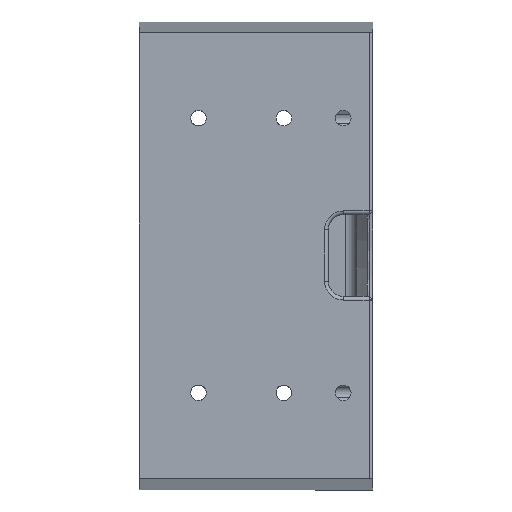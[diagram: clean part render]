
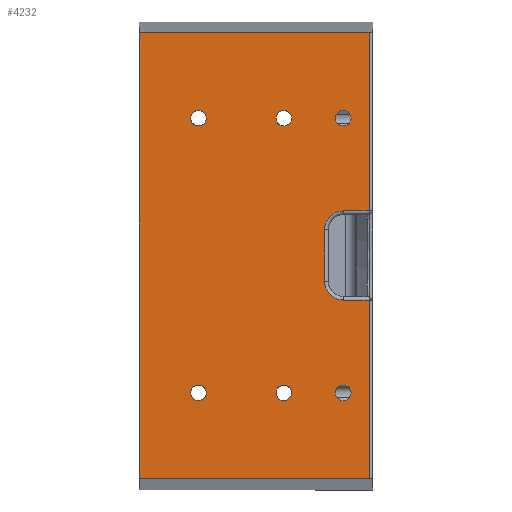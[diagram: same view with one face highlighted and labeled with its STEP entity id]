
A CAD part, top view. The second image highlights one B-rep face of the part: STEP entity #4232.
In plain terms, the highlighted planar face has unit normal (0, 0, 1).
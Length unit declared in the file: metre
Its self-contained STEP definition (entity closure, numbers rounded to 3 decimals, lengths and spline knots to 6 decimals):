
#73=PLANE('',#4573);
#234=CIRCLE('',#4574,0.0021);
#235=CIRCLE('',#4575,0.0021);
#236=CIRCLE('',#4576,0.0021);
#237=CIRCLE('',#4577,0.0021);
#238=CIRCLE('',#4578,0.0021);
#239=CIRCLE('',#4579,0.0021);
#240=CIRCLE('',#4580,0.005);
#241=CIRCLE('',#4581,0.005);
#624=ORIENTED_EDGE('',*,*,#1893,.T.);
#625=ORIENTED_EDGE('',*,*,#1894,.T.);
#626=ORIENTED_EDGE('',*,*,#1895,.T.);
#627=ORIENTED_EDGE('',*,*,#1896,.T.);
#628=ORIENTED_EDGE('',*,*,#1897,.T.);
#629=ORIENTED_EDGE('',*,*,#1898,.T.);
#630=ORIENTED_EDGE('',*,*,#1899,.F.);
#631=ORIENTED_EDGE('',*,*,#1873,.F.);
#632=ORIENTED_EDGE('',*,*,#1900,.T.);
#633=ORIENTED_EDGE('',*,*,#1901,.F.);
#634=ORIENTED_EDGE('',*,*,#1902,.F.);
#635=ORIENTED_EDGE('',*,*,#1903,.F.);
#636=ORIENTED_EDGE('',*,*,#1904,.F.);
#637=ORIENTED_EDGE('',*,*,#1905,.F.);
#638=ORIENTED_EDGE('',*,*,#1906,.F.);
#639=ORIENTED_EDGE('',*,*,#1907,.F.);
#1873=EDGE_CURVE('',#2507,#2508,#2860,.T.);
#1893=EDGE_CURVE('',#2525,#2525,#234,.T.);
#1894=EDGE_CURVE('',#2526,#2526,#235,.T.);
#1895=EDGE_CURVE('',#2527,#2527,#236,.T.);
#1896=EDGE_CURVE('',#2528,#2528,#237,.T.);
#1897=EDGE_CURVE('',#2529,#2529,#238,.T.);
#1898=EDGE_CURVE('',#2530,#2530,#239,.T.);
#1899=EDGE_CURVE('',#2508,#2531,#2871,.T.);
#1900=EDGE_CURVE('',#2507,#2532,#2872,.T.);
#1901=EDGE_CURVE('',#2533,#2532,#2873,.T.);
#1902=EDGE_CURVE('',#2534,#2533,#2874,.T.);
#1903=EDGE_CURVE('',#2535,#2534,#240,.F.);
#1904=EDGE_CURVE('',#2536,#2535,#2875,.T.);
#1905=EDGE_CURVE('',#2537,#2536,#241,.F.);
#1906=EDGE_CURVE('',#2538,#2537,#2876,.F.);
#1907=EDGE_CURVE('',#2531,#2538,#2877,.T.);
#2507=VERTEX_POINT('',#6812);
#2508=VERTEX_POINT('',#6814);
#2525=VERTEX_POINT('',#6870);
#2526=VERTEX_POINT('',#6872);
#2527=VERTEX_POINT('',#6874);
#2528=VERTEX_POINT('',#6876);
#2529=VERTEX_POINT('',#6878);
#2530=VERTEX_POINT('',#6880);
#2531=VERTEX_POINT('',#6882);
#2532=VERTEX_POINT('',#6884);
#2533=VERTEX_POINT('',#6886);
#2534=VERTEX_POINT('',#6888);
#2535=VERTEX_POINT('',#6890);
#2536=VERTEX_POINT('',#6892);
#2537=VERTEX_POINT('',#6894);
#2538=VERTEX_POINT('',#6896);
#2860=LINE('',#6813,#3135);
#2871=LINE('',#6881,#3146);
#2872=LINE('',#6883,#3147);
#2873=LINE('',#6885,#3148);
#2874=LINE('',#6887,#3149);
#2875=LINE('',#6891,#3150);
#2876=LINE('',#6895,#3151);
#2877=LINE('',#6897,#3152);
#3135=VECTOR('',#5261,1.);
#3146=VECTOR('',#5300,1.);
#3147=VECTOR('',#5301,1.);
#3148=VECTOR('',#5302,1.);
#3149=VECTOR('',#5303,1.);
#3150=VECTOR('',#5306,1.);
#3151=VECTOR('',#5309,1.);
#3152=VECTOR('',#5310,1.);
#3416=EDGE_LOOP('',(#624));
#3417=EDGE_LOOP('',(#625));
#3418=EDGE_LOOP('',(#626));
#3419=EDGE_LOOP('',(#627));
#3420=EDGE_LOOP('',(#628));
#3421=EDGE_LOOP('',(#629));
#3422=EDGE_LOOP('',(#630,#631,#632,#633,#634,#635,#636,#637,#638,#639));
#3768=FACE_BOUND('',#3416,.T.);
#3769=FACE_BOUND('',#3417,.T.);
#3770=FACE_BOUND('',#3418,.T.);
#3771=FACE_BOUND('',#3419,.T.);
#3772=FACE_BOUND('',#3420,.T.);
#3773=FACE_BOUND('',#3421,.T.);
#3774=FACE_BOUND('',#3422,.T.);
#4232=ADVANCED_FACE('',(#3768,#3769,#3770,#3771,#3772,#3773,#3774),#73,
 .T.);
#4573=AXIS2_PLACEMENT_3D('',#6868,#5286,#5287);
#4574=AXIS2_PLACEMENT_3D('',#6869,#5288,#5289);
#4575=AXIS2_PLACEMENT_3D('',#6871,#5290,#5291);
#4576=AXIS2_PLACEMENT_3D('',#6873,#5292,#5293);
#4577=AXIS2_PLACEMENT_3D('',#6875,#5294,#5295);
#4578=AXIS2_PLACEMENT_3D('',#6877,#5296,#5297);
#4579=AXIS2_PLACEMENT_3D('',#6879,#5298,#5299);
#4580=AXIS2_PLACEMENT_3D('',#6889,#5304,#5305);
#4581=AXIS2_PLACEMENT_3D('',#6893,#5307,#5308);
#5261=DIRECTION('',(0.,1.,0.));
#5286=DIRECTION('',(0.,0.,1.));
#5287=DIRECTION('',(0.,-1.,0.));
#5288=DIRECTION('',(0.,0.,-1.));
#5289=DIRECTION('',(-1.,0.,0.));
#5290=DIRECTION('',(0.,0.,-1.));
#5291=DIRECTION('',(-1.,0.,0.));
#5292=DIRECTION('',(0.,0.,-1.));
#5293=DIRECTION('',(-1.,0.,0.));
#5294=DIRECTION('',(0.,0.,-1.));
#5295=DIRECTION('',(-1.,0.,0.));
#5296=DIRECTION('',(0.,0.,-1.));
#5297=DIRECTION('',(-1.,0.,0.));
#5298=DIRECTION('',(0.,0.,-1.));
#5299=DIRECTION('',(-1.,0.,0.));
#5300=DIRECTION('',(1.,0.,0.));
#5301=DIRECTION('',(1.,0.,0.));
#5302=DIRECTION('',(0.,-1.,0.));
#5303=DIRECTION('',(1.,0.,0.));
#5304=DIRECTION('',(0.,0.,-1.));
#5305=DIRECTION('',(0.,-1.,0.));
#5306=DIRECTION('',(0.,-1.,0.));
#5307=DIRECTION('',(0.,0.,-1.));
#5308=DIRECTION('',(0.,-1.,0.));
#5309=DIRECTION('',(1.,0.,0.));
#5310=DIRECTION('',(0.,-1.,0.));
#6812=CARTESIAN_POINT('',(-0.063,-0.06,0.));
#6813=CARTESIAN_POINT('',(-0.063,0.,0.));
#6814=CARTESIAN_POINT('',(-0.063,0.06,0.));
#6868=CARTESIAN_POINT('',(-0.063002,0.,0.));
#6869=CARTESIAN_POINT('',(-0.047,-0.037,0.));
#6870=CARTESIAN_POINT('',(-0.0491,-0.037,0.));
#6871=CARTESIAN_POINT('',(-0.008,-0.037,0.));
#6872=CARTESIAN_POINT('',(-0.0101,-0.037,0.));
#6873=CARTESIAN_POINT('',(-0.008,0.037,0.));
#6874=CARTESIAN_POINT('',(-0.0101,0.037,0.));
#6875=CARTESIAN_POINT('',(-0.024,0.037,0.));
#6876=CARTESIAN_POINT('',(-0.0261,0.037,0.));
#6877=CARTESIAN_POINT('',(-0.024,-0.037,0.));
#6878=CARTESIAN_POINT('',(-0.0261,-0.037,0.));
#6879=CARTESIAN_POINT('',(-0.047,0.037,0.));
#6880=CARTESIAN_POINT('',(-0.0491,0.037,0.));
#6881=CARTESIAN_POINT('',(-0.063002,0.06,0.));
#6882=CARTESIAN_POINT('',(-0.001,0.06,0.));
#6883=CARTESIAN_POINT('',(-0.063002,-0.06,0.));
#6884=CARTESIAN_POINT('',(-0.001,-0.06,0.));
#6885=CARTESIAN_POINT('',(-0.001,-0.06,0.));
#6886=CARTESIAN_POINT('',(-0.001,-0.012,0.));
#6887=CARTESIAN_POINT('',(-0.063002,-0.012,0.));
#6888=CARTESIAN_POINT('',(-0.008,-0.012,0.));
#6889=CARTESIAN_POINT('',(-0.008,-0.007,0.));
#6890=CARTESIAN_POINT('',(-0.013,-0.007,0.));
#6891=CARTESIAN_POINT('',(-0.013,0.,0.));
#6892=CARTESIAN_POINT('',(-0.013,0.007,0.));
#6893=CARTESIAN_POINT('',(-0.008,0.007,0.));
#6894=CARTESIAN_POINT('',(-0.008,0.012,0.));
#6895=CARTESIAN_POINT('',(-0.008,0.012,0.));
#6896=CARTESIAN_POINT('',(-0.001,0.012,0.));
#6897=CARTESIAN_POINT('',(-0.001,0.012,0.));
